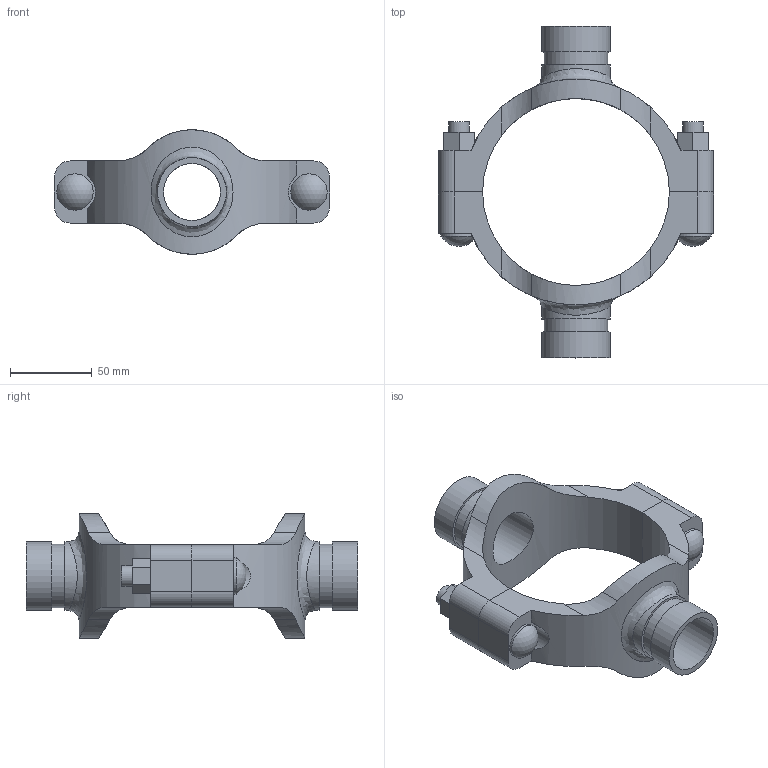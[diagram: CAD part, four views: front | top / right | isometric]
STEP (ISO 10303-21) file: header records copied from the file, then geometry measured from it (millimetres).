
FILE_DESCRIPTION(/* description */ ('VIC MECH-T BRANCH OUTLET CROSS STYLE 920N (GRVD)','CAx-IF Rec.Pracs.---Representation and Presentation of Product Manufacturing Information (PMI)---4.0---2014-10-13'),/* implementation_level */ '2;1');
FILE_NAME(/* name */ 'C:\Users\Vjadhav\AppData\Roaming\Autodesk\ApplicationPlugins\Back Up\Victaulic_IPS_Mechanical-Cross Outlet_Style 920N (OGS)\Victaulic_IPS_Mechanical-Cross Outlet_04.0x01.25x01.25 (100x32x32).stp',/* time_stamp */ '2020-08-06T19:43:36+05:00',/* author */ ('Vjadhav'),/* organization */ ('Victaulic'),/* preprocessor_version */ 'ST-DEVELOPER v17.2',/* originating_system */ 'Autodesk Inventor 2019',/* authorisation */ '');
FILE_SCHEMA (('AP242_MANAGED_MODEL_BASED_3D_ENGINEERING_MIM_LF { 1 0 10303 442 1 1 4 }'));
Length unit declared in the file: inch
Products named in the file (3): 920NG-04.0x01.25x01.25; 920NG-04.0x01.25; 920NG-04.0x01.25_1
Assembly tree (2 placements, depth 2):
  920NG-04.0x01.25x01.25
    920NG-04.0x01.25
    920NG-04.0x01.25_1
Bounding box: 168.4 x 203.2 x 76.19 mm (x, y, z)
Volume: 292149.5 mm3; surface area: 85196.7 mm2
Topology: 2 solids, 2 shells, 108 faces, 274 edges, 186 vertices
Faces by surface type: plane 54, cylinder 50, sphere 2, bspline 2
Full cylindrical faces by diameter (mm): 12.7 x4, 22.225 x2, 34.925 x2, 38.989 x2, 42.164 x4
Entity records: 4310 total; most frequent: CARTESIAN_POINT 1429, DIRECTION 552, ORIENTED_EDGE 548, EDGE_CURVE 274, AXIS2_PLACEMENT_3D 201, VERTEX_POINT 186, LINE 150, VECTOR 150
